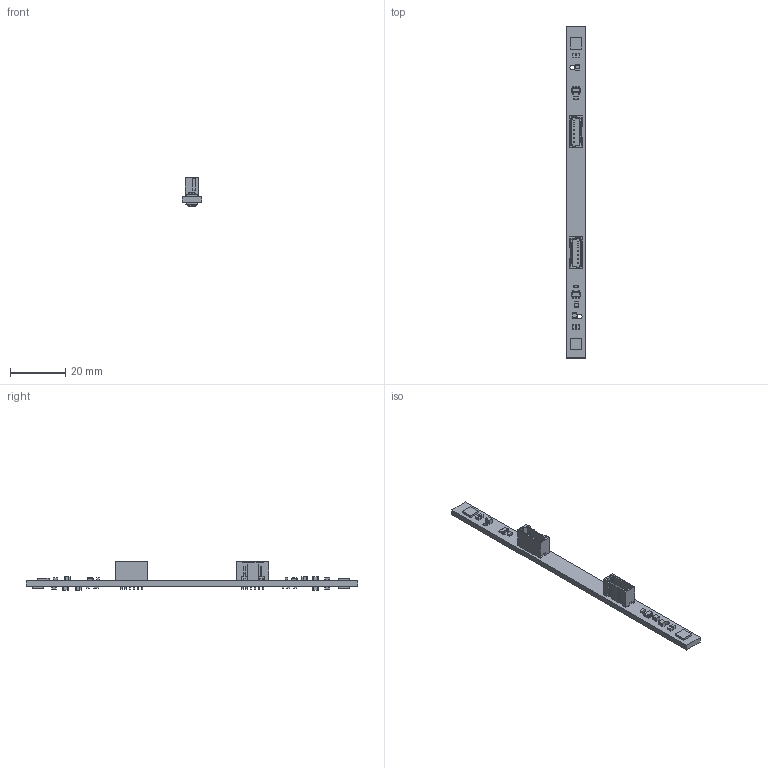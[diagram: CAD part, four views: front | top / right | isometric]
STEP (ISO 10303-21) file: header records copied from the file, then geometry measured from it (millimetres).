
FILE_DESCRIPTION(('Open CASCADE Model'),'2;1');
FILE_NAME('Open CASCADE Shape Model','2017-02-27T15:48:41',('Author'),( 'Open CASCADE'),'Open CASCADE STEP processor 6.8','Open CASCADE 6.8' ,'Unknown');
FILE_SCHEMA(('AUTOMOTIVE_DESIGN { 1 0 10303 214 1 1 1 1 }'));
Length unit declared in the file: millimetre
Products named in the file (60): PCB; Board; J1_V; 292207-6; 292207-6_1; 292207-6_2; J1_H; C1_H; 891108176; Extruded; 891108312; C1_V; C2_H; C2_V; C3_H; C3_V; C4_H; C4_V; C5_H; 891107904; 891108040; C5_V; R1_H; 891107632; 891107768; R1_V; R2_H; R2_V; R3_H; R3_V; R4_H; 891108856; 891108992; R4_V; R5_H; R5_V; U1_H; 891108448; U1_V; U2_H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
Assembly tree (124 placements, depth 4):
  PCB
    Board
    J1_V
      292207-6
        292207-6_1
        292207-6_2
    J1_H
      292207-6
        292207-6_1
        292207-6_2
    C1_H
      891108176  x2
        Extruded
      891108312
        Extruded
    C1_V
      891108176  x2
        Extruded
      891108312
        Extruded
    C2_H
      891108176  x2
        Extruded
      891108312
        Extruded
    C2_V
      891108176  x2
        Extruded
      891108312
        Extruded
    C3_H
      891108176  x2
        Extruded
      891108312
        Extruded
    C3_V
      891108176  x2
        Extruded
      891108312
        Extruded
    C4_H
      891108176  x2
        Extruded
      891108312
        Extruded
    C4_V
      891108176  x2
        Extruded
      891108312
        Extruded
    C5_H
      891107904  x2
        Extruded
      891108040
        Extruded
    C5_V
      891107904  x2
        Extruded
      891108040
        Extruded
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Bounding box: 7 x 120 x 10.4 mm (x, y, z)
Volume: 2195.2 mm3; surface area: 4021.2 mm2
Topology: 97 solids, 97 shells, 1166 faces, 2812 edges, 1832 vertices
Faces by surface type: plane 960, cylinder 174, sphere 20, cone 12
Full cylindrical faces by diameter (mm): 0.9 x14, 1.75 x2
Entity records: 34349 total; most frequent: CARTESIAN_POINT 12923, DIRECTION 3757, LINE 2380, VECTOR 2380, ORIENTED_EDGE 2004, PCURVE 2004, DEFINITIONAL_REPRESENTATION 2004, EDGE_CURVE 1002
